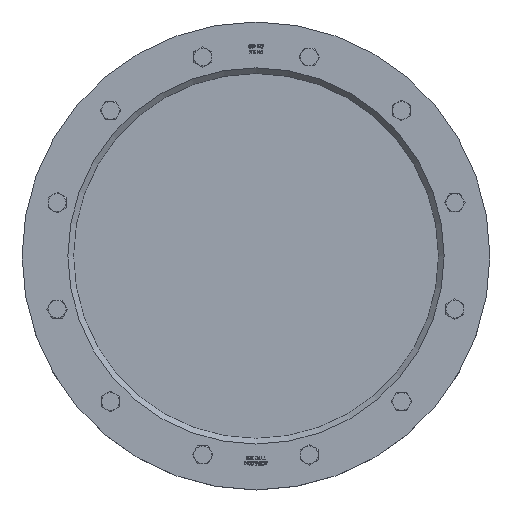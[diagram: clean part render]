
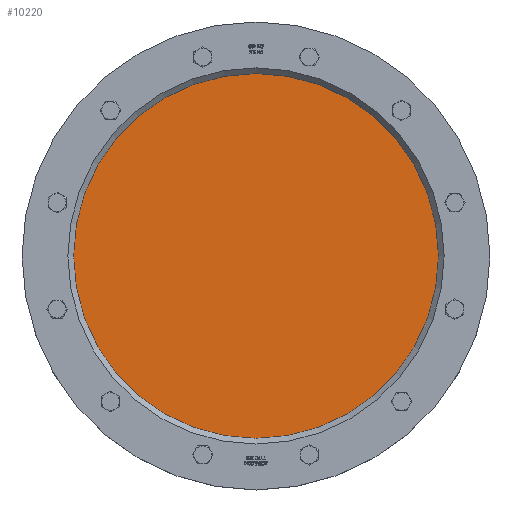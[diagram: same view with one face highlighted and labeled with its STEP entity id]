
A CAD part, top view. The second image highlights one B-rep face of the part: STEP entity #10220.
In plain terms, the highlighted planar face has unit normal (0, 0, 1).
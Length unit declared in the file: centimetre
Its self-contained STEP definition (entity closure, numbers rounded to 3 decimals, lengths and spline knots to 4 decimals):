
#3179=FACE_OUTER_BOUND('',#3763,.T.);
#3763=EDGE_LOOP('',(#6961));
#4427=CIRCLE('',#10808,19.5);
#4531=VERTEX_POINT('',#13254);
#5495=EDGE_CURVE('',#4531,#4531,#4427,.T.);
#6961=ORIENTED_EDGE('',*,*,#5495,.F.);
#9893=PLANE('',#10807);
#10220=ADVANCED_FACE('',(#3179),#9893,.F.);
#10807=AXIS2_PLACEMENT_3D('',#13253,#11331,#11332);
#10808=AXIS2_PLACEMENT_3D('',#13255,#11333,#11334);
#11331=DIRECTION('center_axis',(0.,0.,
-1.));
#11332=DIRECTION('ref_axis',(-1.,0.,0.));
#11333=DIRECTION('center_axis',(0.,0.,
-1.));
#11334=DIRECTION('ref_axis',(1.,0.,0.));
#13253=CARTESIAN_POINT('Origin',(3.6266,0.0625,-11.3311));
#13254=CARTESIAN_POINT('',(-15.8734,0.0625,-11.3311));
#13255=CARTESIAN_POINT('Origin',(3.6266,0.0625,-11.3311));
